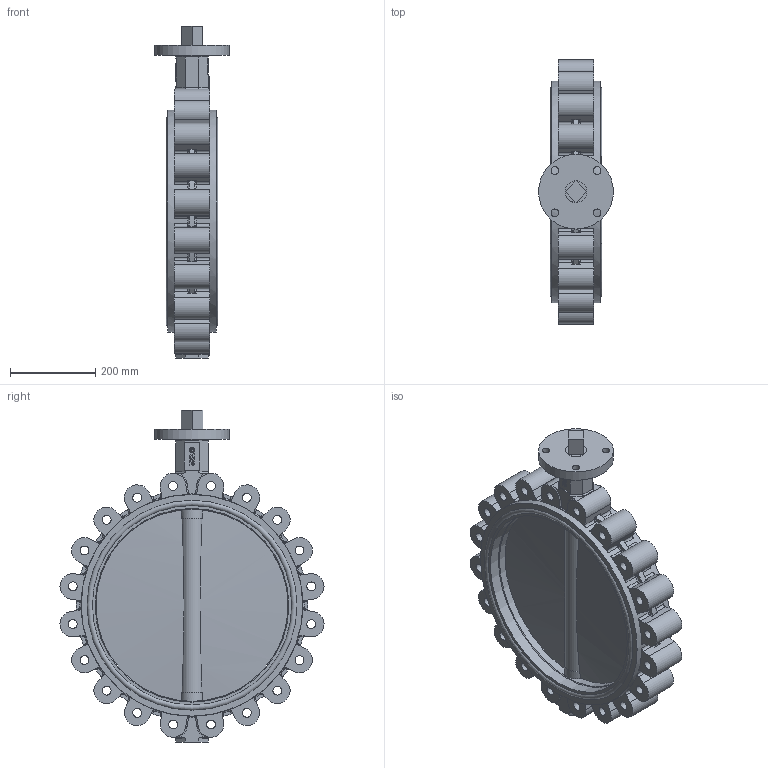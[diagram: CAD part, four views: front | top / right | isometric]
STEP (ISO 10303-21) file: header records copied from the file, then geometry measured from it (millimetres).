
FILE_DESCRIPTION(('STEP AP242'), '1');
FILE_NAME('Ïîâîðîòíûé çàòâîð ïîä ýëåêòðîïðèâîä', '', ('UNSPECIFIED'), ('UNSPECIFIED'), 'C3D Converter', 'C3D Toolkit', '');
FILE_SCHEMA(('AP242_MANAGED_MODEL_BASED_3D_ENGINEERING_MIM_LF { 1 0 10303 442 1 1 4 }'));
Length unit declared in the file: millimetre
Products named in the file (6): П
Assembly tree (6 placements, depth 2):
  (unnamed)
    (unnamed)
    П  x2
    (unnamed)
    (unnamed)
    (unnamed)
Bounding box: 175 x 618.03 x 777 mm (x, y, z)
Volume: 16280086.9 mm3; surface area: 1884614.4 mm2
Topology: 6 solids, 6 shells, 862 faces, 2254 edges, 1436 vertices
Faces by surface type: plane 311, cylinder 278, extrusion 135, torus 130, cone 4, sphere 4
Full cylindrical faces by diameter (mm): 12.564 x1, 18 x4, 20.752 x20, 36 x5, 39.6 x1, 50.912 x5, 54.15 x4, 175 x1, 450 x1, 453.375 x2, 466.875 x2, 478.938 x4, 491 x4, 518.733 x2
Entity records: 33927 total; most frequent: CARTESIAN_POINT 10801, ORIENTED_EDGE 4368, DIRECTION 4122, EDGE_CURVE 2184, AXIS2_PLACEMENT_3D 1477, VERTEX_POINT 1431, VECTOR 1168, LINE 1033
